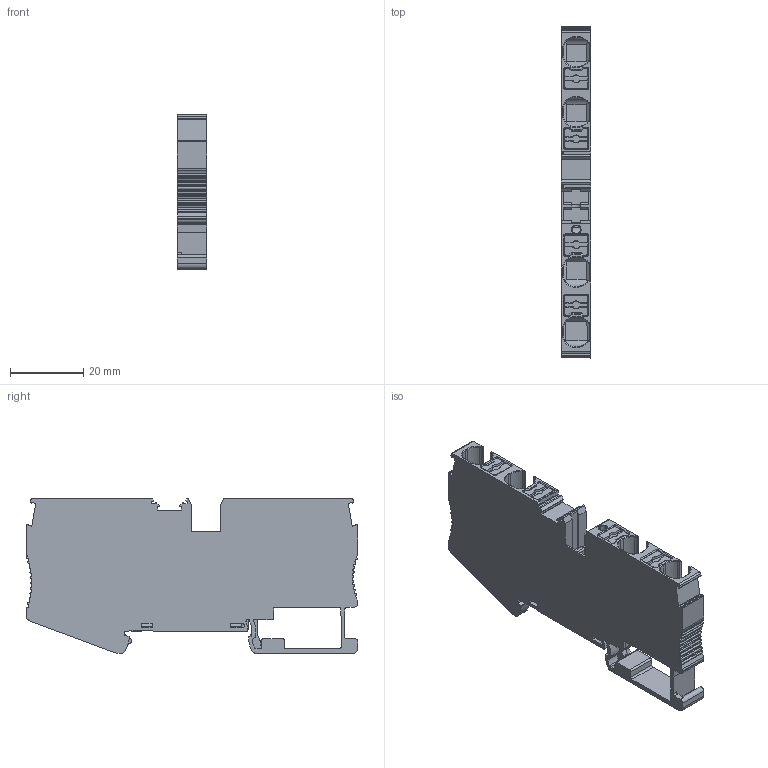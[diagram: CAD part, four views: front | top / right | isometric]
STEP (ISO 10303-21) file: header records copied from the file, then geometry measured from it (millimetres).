
FILE_DESCRIPTION((''),'2;1');
FILE_NAME('PRT0002','2024-04-03T11:32:20',('Administrator'),(''),'CREO PARAMETRIC BY PTC INC, 2018050','CREO PARAMETRIC BY PTC INC, 2018050','');
FILE_SCHEMA(('CONFIG_CONTROL_DESIGN'));
Length unit declared in the file: millimetre
Products named in the file (1): PRT0002
Bounding box: 8.15 x 90.53 x 42.2 mm (x, y, z)
Volume: 21389.2 mm3; surface area: 13903.7 mm2
Topology: 1 solids, 7 shells, 1158 faces, 3262 edges, 2129 vertices
Faces by surface type: plane 630, cylinder 433, cone 42, torus 26, bspline 24, extrusion 3
Entity records: 38462 total; most frequent: CARTESIAN_POINT 8266, ORIENTED_EDGE 6524, DIRECTION 6118, EDGE_CURVE 3262, VECTOR 2174, LINE 2171, VERTEX_POINT 2129, AXIS2_PLACEMENT_3D 1972
